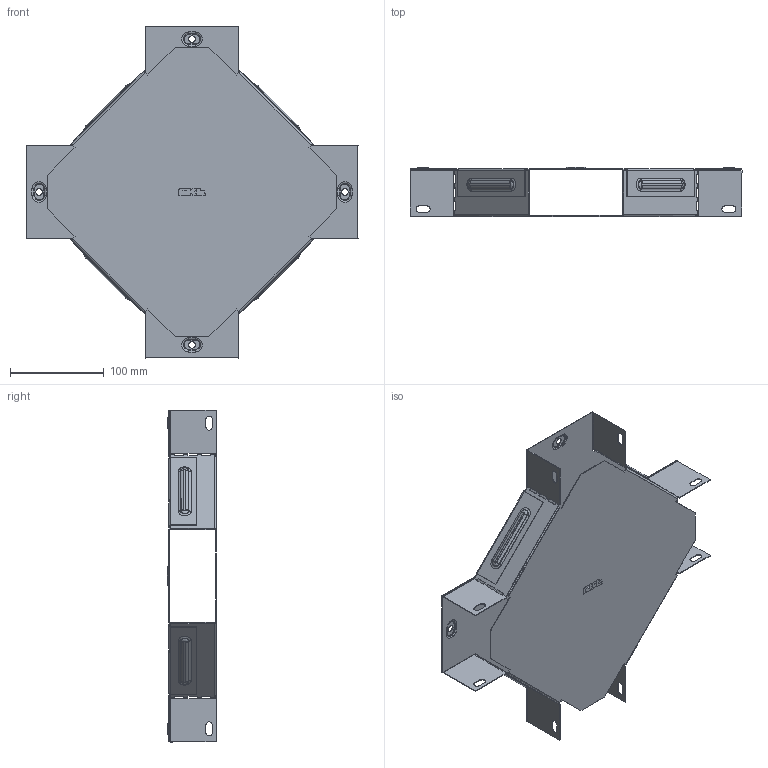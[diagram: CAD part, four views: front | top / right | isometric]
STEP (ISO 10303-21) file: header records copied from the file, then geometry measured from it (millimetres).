
FILE_DESCRIPTION (( 'STEP AP214' ), '1' );
FILE_NAME ('x5010008_捘.STEP', '2019-06-10T07:14:06', ( '砐錪賧瘔蠈錪 Windows' ), ( '' ), 'SwSTEP 2.0', 'SolidWorks 2018', '' );
FILE_SCHEMA (( 'AUTOMOTIVE_DESIGN' ));
Length unit declared in the file: millimetre
Products named in the file (1): x5010008_捘
Bounding box: 355.01 x 52.4 x 355.01 mm (x, y, z)
Volume: 148365.5 mm3; surface area: 374638.5 mm2
Topology: 2 solids, 2 shells, 732 faces, 2108 edges, 1368 vertices
Faces by surface type: plane 398, cylinder 220, torus 96, bspline 18
Entity records: 24939 total; most frequent: CARTESIAN_POINT 5167, ORIENTED_EDGE 4216, DIRECTION 4086, EDGE_CURVE 2108, VECTOR 1488, LINE 1488, VERTEX_POINT 1368, AXIS2_PLACEMENT_3D 1299
